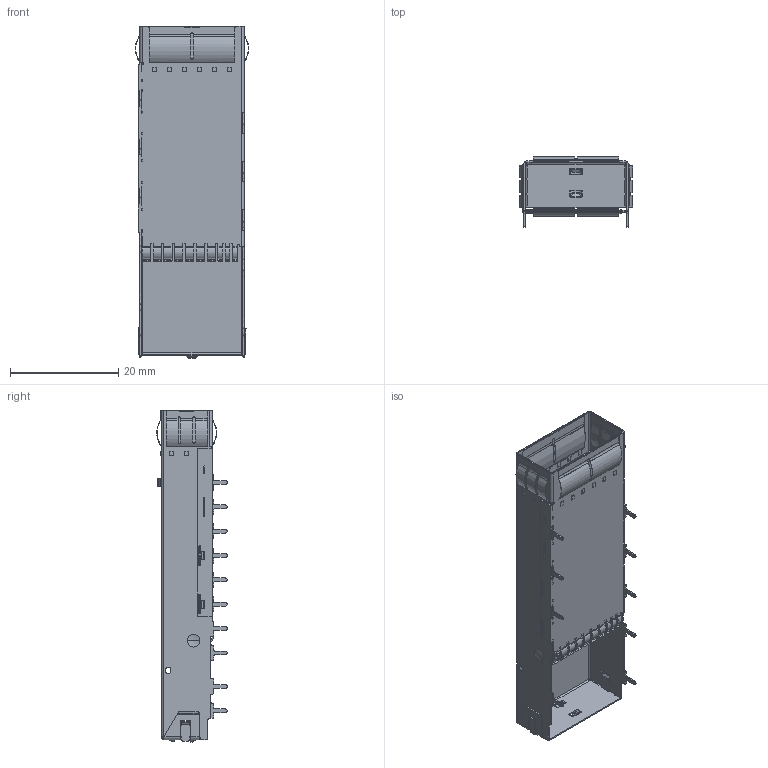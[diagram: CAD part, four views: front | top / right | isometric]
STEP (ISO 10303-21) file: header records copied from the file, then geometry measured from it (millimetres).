
FILE_DESCRIPTION(/* description */ (''),/* implementation_level */ '2;1');
FILE_NAME(/* name */ 'QSFP28 1X1焊接脚 后0脚.stp',/* time_stamp */ '2026-08-29T15:31:06+08:00',/* author */ (''),/* organization */ (''),/* preprocessor_version */ 'ST-DEVELOPER v16.7',/* originating_system */ 'SIEMENS PLM Software NX 1847',/* authorisation */ '');
FILE_SCHEMA (('AUTOMOTIVE_DESIGN { 1 0 10303 214 3 1 1 1 }'));
Length unit declared in the file: millimetre
Products named in the file (1): Admi29F470BBieow
Bounding box: 20.91 x 13.03 x 61.37 mm (x, y, z)
Volume: 871.4 mm3; surface area: 7621.3 mm2
Topology: 1 solids, 1 shells, 1625 faces, 4183 edges, 2520 vertices
Faces by surface type: plane 952, cylinder 612, bspline 45, sphere 16
Entity records: 50953 total; most frequent: CARTESIAN_POINT 11106, DIRECTION 8409, ORIENTED_EDGE 8354, EDGE_CURVE 4177, AXIS2_PLACEMENT_3D 2827, LINE 2755, VECTOR 2755, VERTEX_POINT 2520
